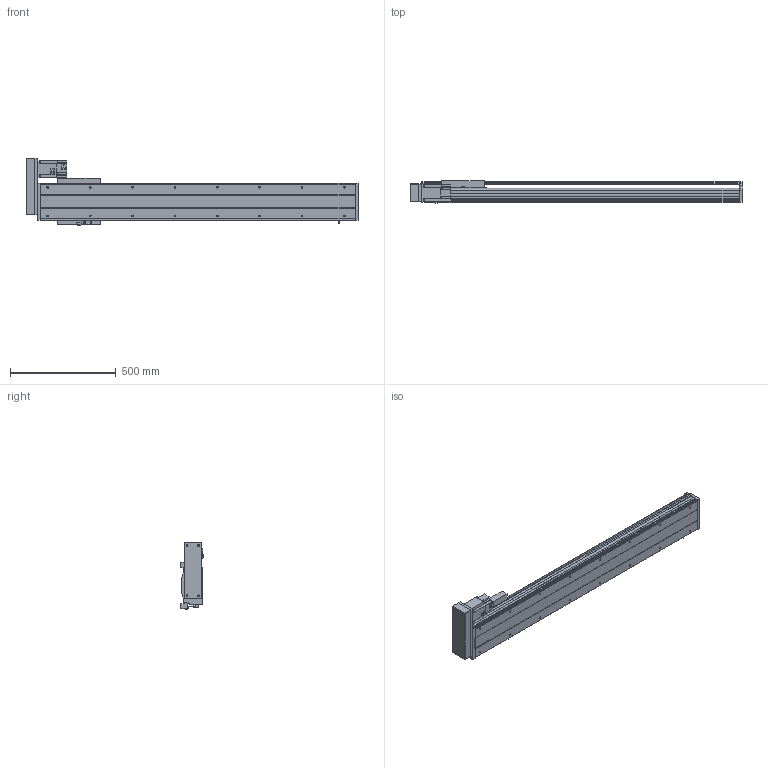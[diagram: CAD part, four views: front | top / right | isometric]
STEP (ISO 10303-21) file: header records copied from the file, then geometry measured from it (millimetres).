
FILE_DESCRIPTION( ( 'STEP AP214' ), '1' );
FILE_NAME( 'x:/temp/worker_27/temp/exporttempdir_6708_449_Fmwrl/format_0/PSS200-L10-S1150-BL-T75-C1-N(0).stp', '2022-06-06T02:50:47', ( 'License CC BY-ND 4.0' ), ( 'CADENAS' ), ' ', 'PARTsolutions', ' ' );
FILE_SCHEMA( ( 'AUTOMOTIVE_DESIGN { 1 0 10303 214 1 1 1 1 }' ) );
Length unit declared in the file: millimetre
Products named in the file (8): PSS200-L10-S1150-BL-T75-C1-N(0); _PSS200-S1150-BL-C1-N_body; _PSS200-N_Q; _PSS200-BL-C1-N_sl; _PSS200-N_sensor; _PSS200BL-N_h; _T75-p1; _PSS200-S1150-BL-N_S
Assembly tree (9 placements, depth 2):
  PSS200-L10-S1150-BL-T75-C1-N(0)
    _PSS200-S1150-BL-C1-N_body
    _PSS200-N_Q
    _PSS200-BL-C1-N_sl
    _PSS200-N_sensor  x3
    _PSS200BL-N_h
    _T75-p1
    _PSS200-S1150-BL-N_S
Bounding box: 1566.85 x 105.3 x 317.86 mm (x, y, z)
Volume: 10088946.2 mm3; surface area: 2429529.3 mm2
Topology: 9 solids, 9 shells, 612 faces, 1633 edges, 1078 vertices
Faces by surface type: plane 466, cylinder 118, cone 24, sphere 4
Full cylindrical faces by diameter (mm): 4 x2, 4.5 x4, 6 x7, 6.647 x20, 7.4 x4, 8 x8, 10 x6, 25 x1, 40 x1, 67 x1
Entity records: 21350 total; most frequent: CARTESIAN_POINT 2907, DIRECTION 2812, ORIENTED_EDGE 2762, EDGE_CURVE 1381, LINE 1090, VECTOR 1090, VERTEX_POINT 956, AXIS2_PLACEMENT_3D 861
